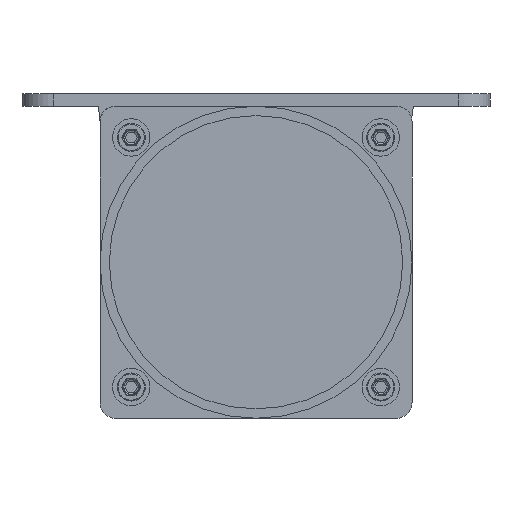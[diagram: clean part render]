
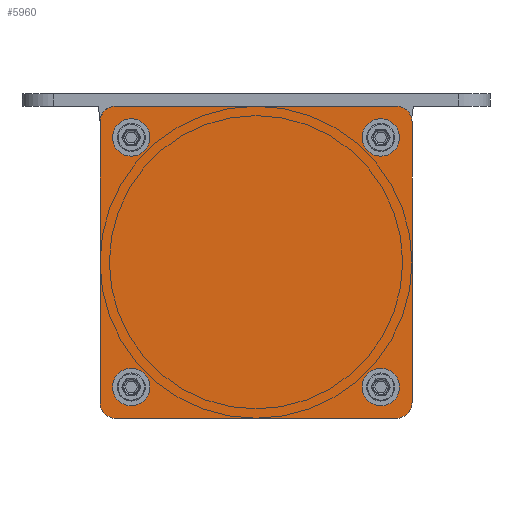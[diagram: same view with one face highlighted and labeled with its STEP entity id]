
A CAD part, front view. The second image highlights one B-rep face of the part: STEP entity #5960.
In plain terms, the highlighted planar face has unit normal (0, -1, 0).
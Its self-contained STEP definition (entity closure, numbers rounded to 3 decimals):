
#2117=CARTESIAN_POINT('',(-45.,-675.5,-45.));
#2118=DIRECTION('',(0.,-1.,0.));
#2119=DIRECTION('',(-1.,0.,0.));
#2120=AXIS2_PLACEMENT_3D('',#2117,#2118,#2119);
#2122=DIRECTION('',(0.,0.,-1.));
#2123=VECTOR('',#2122,90.);
#2124=CARTESIAN_POINT('',(-50.,-675.5,45.));
#2125=LINE('',#2124,#2123);
#2126=CARTESIAN_POINT('',(-45.,-675.5,45.));
#2127=DIRECTION('',(0.,-1.,0.));
#2128=DIRECTION('',(0.,0.,1.));
#2129=AXIS2_PLACEMENT_3D('',#2126,#2127,#2128);
#2131=DIRECTION('',(-1.,0.,0.));
#2132=VECTOR('',#2131,90.);
#2133=CARTESIAN_POINT('',(45.,-675.5,50.));
#2134=LINE('',#2133,#2132);
#2135=CARTESIAN_POINT('',(45.,-675.5,45.));
#2136=DIRECTION('',(0.,-1.,0.));
#2137=DIRECTION('',(1.,0.,0.));
#2138=AXIS2_PLACEMENT_3D('',#2135,#2136,#2137);
#2140=DIRECTION('',(0.,0.,1.));
#2141=VECTOR('',#2140,90.);
#2142=CARTESIAN_POINT('',(50.,-675.5,-45.));
#2143=LINE('',#2142,#2141);
#2144=CARTESIAN_POINT('',(45.,-675.5,-45.));
#2145=DIRECTION('',(0.,-1.,0.));
#2146=DIRECTION('',(0.,0.,-1.));
#2147=AXIS2_PLACEMENT_3D('',#2144,#2145,#2146);
#2149=DIRECTION('',(1.,0.,0.));
#2150=VECTOR('',#2149,90.);
#2151=CARTESIAN_POINT('',(-45.,-675.5,-50.));
#2152=LINE('',#2151,#2150);
#2153=CARTESIAN_POINT('',(-40.,-675.5,-40.));
#2154=DIRECTION('',(0.,-1.,0.));
#2155=DIRECTION('',(0.,0.,1.));
#2156=AXIS2_PLACEMENT_3D('',#2153,#2154,#2155);
#2158=CARTESIAN_POINT('',(-40.,-675.5,-40.));
#2159=DIRECTION('',(0.,-1.,0.));
#2160=DIRECTION('',(0.,0.,-1.));
#2161=AXIS2_PLACEMENT_3D('',#2158,#2159,#2160);
#2163=CARTESIAN_POINT('',(-40.,-675.5,40.));
#2164=DIRECTION('',(0.,-1.,0.));
#2165=DIRECTION('',(0.,0.,1.));
#2166=AXIS2_PLACEMENT_3D('',#2163,#2164,#2165);
#2168=CARTESIAN_POINT('',(-40.,-675.5,40.));
#2169=DIRECTION('',(0.,-1.,0.));
#2170=DIRECTION('',(0.,0.,-1.));
#2171=AXIS2_PLACEMENT_3D('',#2168,#2169,#2170);
#2173=CARTESIAN_POINT('',(40.,-675.5,-40.));
#2174=DIRECTION('',(0.,-1.,0.));
#2175=DIRECTION('',(0.,0.,1.));
#2176=AXIS2_PLACEMENT_3D('',#2173,#2174,#2175);
#2178=CARTESIAN_POINT('',(40.,-675.5,-40.));
#2179=DIRECTION('',(0.,-1.,0.));
#2180=DIRECTION('',(0.,0.,-1.));
#2181=AXIS2_PLACEMENT_3D('',#2178,#2179,#2180);
#2183=CARTESIAN_POINT('',(40.,-675.5,40.));
#2184=DIRECTION('',(0.,-1.,0.));
#2185=DIRECTION('',(0.,0.,1.));
#2186=AXIS2_PLACEMENT_3D('',#2183,#2184,#2185);
#2188=CARTESIAN_POINT('',(40.,-675.5,40.));
#2189=DIRECTION('',(0.,-1.,0.));
#2190=DIRECTION('',(0.,0.,-1.));
#2191=AXIS2_PLACEMENT_3D('',#2188,#2189,#2190);
#2501=CARTESIAN_POINT('',(-50.,-675.5,-45.));
#2502=CARTESIAN_POINT('',(-45.,-675.5,-50.));
#2503=VERTEX_POINT('',#2501);
#2504=VERTEX_POINT('',#2502);
#2505=CARTESIAN_POINT('',(45.,-675.5,-50.));
#2506=VERTEX_POINT('',#2505);
#2507=CARTESIAN_POINT('',(50.,-675.5,-45.));
#2508=VERTEX_POINT('',#2507);
#2509=CARTESIAN_POINT('',(50.,-675.5,45.));
#2510=VERTEX_POINT('',#2509);
#2511=CARTESIAN_POINT('',(45.,-675.5,50.));
#2512=VERTEX_POINT('',#2511);
#2513=CARTESIAN_POINT('',(-45.,-675.5,50.));
#2514=VERTEX_POINT('',#2513);
#2515=CARTESIAN_POINT('',(-50.,-675.5,45.));
#2516=VERTEX_POINT('',#2515);
#2529=CARTESIAN_POINT('',(-40.,-675.5,-36.75));
#2530=CARTESIAN_POINT('',(-40.,-675.5,-43.25));
#2531=VERTEX_POINT('',#2529);
#2532=VERTEX_POINT('',#2530);
#2533=CARTESIAN_POINT('',(-40.,-675.5,43.25));
#2534=CARTESIAN_POINT('',(-40.,-675.5,36.75));
#2535=VERTEX_POINT('',#2533);
#2536=VERTEX_POINT('',#2534);
#2537=CARTESIAN_POINT('',(40.,-675.5,-36.75));
#2538=CARTESIAN_POINT('',(40.,-675.5,-43.25));
#2539=VERTEX_POINT('',#2537);
#2540=VERTEX_POINT('',#2538);
#2541=CARTESIAN_POINT('',(40.,-675.5,43.25));
#2542=CARTESIAN_POINT('',(40.,-675.5,36.75));
#2543=VERTEX_POINT('',#2541);
#2544=VERTEX_POINT('',#2542);
#5915=CARTESIAN_POINT('',(0.,-675.5,0.));
#5916=DIRECTION('',(0.,-1.,0.));
#5917=DIRECTION('',(0.,0.,1.));
#5918=AXIS2_PLACEMENT_3D('',#5915,#5916,#5917);
#5919=PLANE('',#5918);
#5921=ORIENTED_EDGE('',*,*,#5920,.F.);
#5923=ORIENTED_EDGE('',*,*,#5922,.F.);
#5925=ORIENTED_EDGE('',*,*,#5924,.F.);
#5927=ORIENTED_EDGE('',*,*,#5926,.F.);
#5929=ORIENTED_EDGE('',*,*,#5928,.F.);
#5931=ORIENTED_EDGE('',*,*,#5930,.F.);
#5933=ORIENTED_EDGE('',*,*,#5932,.F.);
#5935=ORIENTED_EDGE('',*,*,#5934,.F.);
#5936=EDGE_LOOP('',(#5921,#5923,#5925,#5927,#5929,#5931,#5933,#5935));
#5937=FACE_OUTER_BOUND('',#5936,.F.);
#5938=ORIENTED_EDGE('',*,*,#5895,.T.);
#5939=ORIENTED_EDGE('',*,*,#5909,.T.);
#5940=EDGE_LOOP('',(#5938,#5939));
#5941=FACE_BOUND('',#5940,.F.);
#5943=ORIENTED_EDGE('',*,*,#5942,.T.);
#5945=ORIENTED_EDGE('',*,*,#5944,.T.);
#5946=EDGE_LOOP('',(#5943,#5945));
#5947=FACE_BOUND('',#5946,.F.);
#5949=ORIENTED_EDGE('',*,*,#5948,.T.);
#5951=ORIENTED_EDGE('',*,*,#5950,.T.);
#5952=EDGE_LOOP('',(#5949,#5951));
#5953=FACE_BOUND('',#5952,.F.);
#5955=ORIENTED_EDGE('',*,*,#5954,.T.);
#5957=ORIENTED_EDGE('',*,*,#5956,.T.);
#5958=EDGE_LOOP('',(#5955,#5957));
#5959=FACE_BOUND('',#5958,.F.);
#5960=ADVANCED_FACE('',(#5937,#5941,#5947,#5953,#5959),#5919,.T.);
#2121=CIRCLE('',#2120,5.);
#2130=CIRCLE('',#2129,5.);
#2139=CIRCLE('',#2138,5.);
#2148=CIRCLE('',#2147,5.);
#2157=CIRCLE('',#2156,3.25);
#2162=CIRCLE('',#2161,3.25);
#2167=CIRCLE('',#2166,3.25);
#2172=CIRCLE('',#2171,3.25);
#2177=CIRCLE('',#2176,3.25);
#2182=CIRCLE('',#2181,3.25);
#2187=CIRCLE('',#2186,3.25);
#2192=CIRCLE('',#2191,3.25);
#5895=EDGE_CURVE('',#2531,#2532,#2157,.T.);
#5909=EDGE_CURVE('',#2532,#2531,#2162,.T.);
#5920=EDGE_CURVE('',#2503,#2504,#2121,.T.);
#5922=EDGE_CURVE('',#2516,#2503,#2125,.T.);
#5924=EDGE_CURVE('',#2514,#2516,#2130,.T.);
#5926=EDGE_CURVE('',#2512,#2514,#2134,.T.);
#5928=EDGE_CURVE('',#2510,#2512,#2139,.T.);
#5930=EDGE_CURVE('',#2508,#2510,#2143,.T.);
#5932=EDGE_CURVE('',#2506,#2508,#2148,.T.);
#5934=EDGE_CURVE('',#2504,#2506,#2152,.T.);
#5942=EDGE_CURVE('',#2535,#2536,#2167,.T.);
#5944=EDGE_CURVE('',#2536,#2535,#2172,.T.);
#5948=EDGE_CURVE('',#2539,#2540,#2177,.T.);
#5950=EDGE_CURVE('',#2540,#2539,#2182,.T.);
#5954=EDGE_CURVE('',#2543,#2544,#2187,.T.);
#5956=EDGE_CURVE('',#2544,#2543,#2192,.T.);
